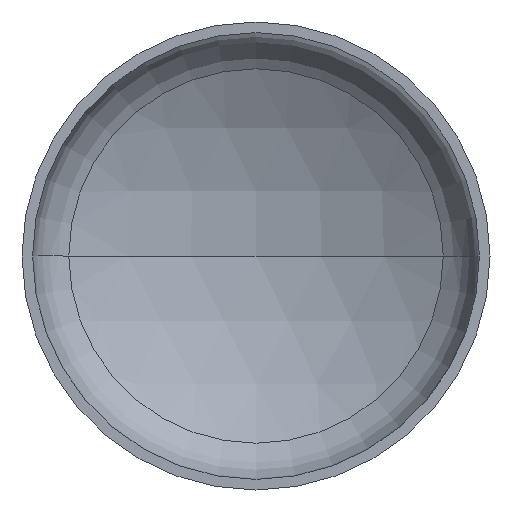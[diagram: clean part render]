
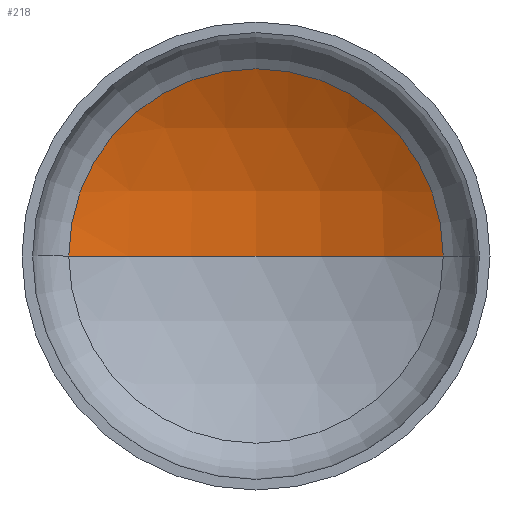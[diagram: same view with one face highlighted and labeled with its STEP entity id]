
A CAD part, front view. The second image highlights one B-rep face of the part: STEP entity #218.
In plain terms, the highlighted spherical face has radius 880 mm.
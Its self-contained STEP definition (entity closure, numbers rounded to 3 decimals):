
#3 = EDGE_LOOP ( 'NONE', ( #341, #96, #62 ) ) ;
#18 = AXIS2_PLACEMENT_3D ( 'NONE', #302, #165, #137 ) ;
#27 = CARTESIAN_POINT ( 'NONE',  ( 0., 222.224, 0. ) ) ;
#28 = VERTEX_POINT ( 'NONE', #263 ) ;
#58 = AXIS2_PLACEMENT_3D ( 'NONE', #282, #228, #185 ) ;
#62 = ORIENTED_EDGE ( 'NONE', *, *, #152, .T. ) ;
#75 = VERTEX_POINT ( 'NONE', #253 ) ;
#78 = AXIS2_PLACEMENT_3D ( 'NONE', #328, #401, #201 ) ;
#83 = AXIS2_PLACEMENT_3D ( 'NONE', #27, #298, #146 ) ;
#96 = ORIENTED_EDGE ( 'NONE', *, *, #156, .T. ) ;
#137 = DIRECTION ( 'NONE',  ( 1., 0., 0. ) ) ;
#141 = VERTEX_POINT ( 'NONE', #230 ) ;
#146 = DIRECTION ( 'NONE',  ( 1., 0., 0. ) ) ;
#152 = EDGE_CURVE ( 'NONE', #28, #75, #174, .T. ) ;
#156 = EDGE_CURVE ( 'NONE', #141, #28, #290, .T. ) ;
#164 = FACE_OUTER_BOUND ( 'NONE', #3, .T. ) ;
#165 = DIRECTION ( 'NONE',  ( 0., 0., 1. ) ) ;
#174 = CIRCLE ( 'NONE', #83, 440. ) ;
#185 = DIRECTION ( 'NONE',  ( -1., 0., 0. ) ) ;
#201 = DIRECTION ( 'NONE',  ( -1., 0., 0. ) ) ;
#218 = ADVANCED_FACE ( 'NONE', ( #164 ), #349, .F. ) ;
#228 = DIRECTION ( 'NONE',  ( 0., 0., -1. ) ) ;
#230 = CARTESIAN_POINT ( 'NONE',  ( 0., 340.122, 0. ) ) ;
#253 = CARTESIAN_POINT ( 'NONE',  ( -440., 222.224, 0. ) ) ;
#263 = CARTESIAN_POINT ( 'NONE',  ( 440., 222.224, 0. ) ) ;
#282 = CARTESIAN_POINT ( 'NONE',  ( 0., -539.878, 0. ) ) ;
#290 = CIRCLE ( 'NONE', #78, 880. ) ;
#298 = DIRECTION ( 'NONE',  ( 0., -1., 0. ) ) ;
#302 = CARTESIAN_POINT ( 'NONE',  ( 0., -539.878, 0. ) ) ;
#328 = CARTESIAN_POINT ( 'NONE',  ( 0., -539.878, 0. ) ) ;
#341 = ORIENTED_EDGE ( 'NONE', *, *, #353, .F. ) ;
#349 = SPHERICAL_SURFACE ( 'NONE', #58, 880. ) ;
#353 = EDGE_CURVE ( 'NONE', #141, #75, #388, .T. ) ;
#388 = CIRCLE ( 'NONE', #18, 880. ) ;
#401 = DIRECTION ( 'NONE',  ( 0., 0., -1. ) ) ;
